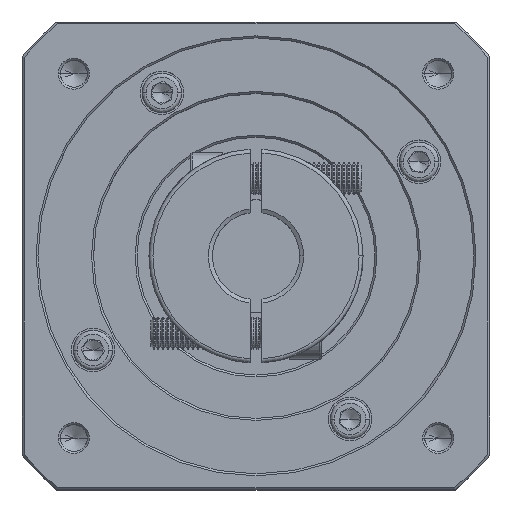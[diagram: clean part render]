
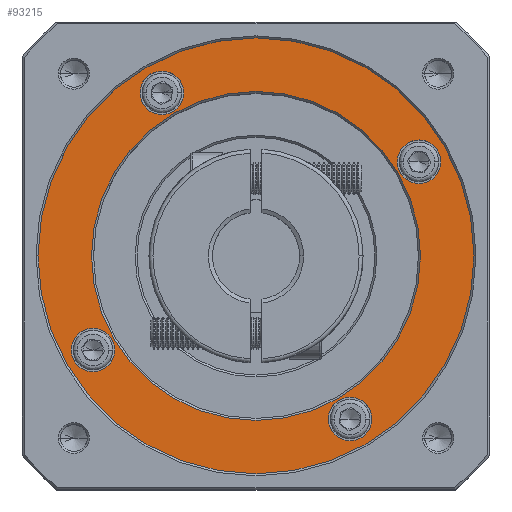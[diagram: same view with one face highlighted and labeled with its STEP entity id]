
A CAD part, top view. The second image highlights one B-rep face of the part: STEP entity #93215.
In plain terms, the highlighted planar face has unit normal (0, 0, 1).
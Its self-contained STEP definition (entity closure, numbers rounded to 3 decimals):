
#1338 = DIRECTION ( 'NONE',  ( 1., 0., 0. ) ) ;
#1892 = EDGE_CURVE ( 'NONE', #13356, #66100, #68498, .T. ) ;
#3138 = FACE_OUTER_BOUND ( 'NONE', #9212, .T. ) ;
#4229 = AXIS2_PLACEMENT_3D ( 'NONE', #20423, #83299, #29493 ) ;
#4446 = CIRCLE ( 'NONE', #73302, 5.5 ) ;
#5276 = VERTEX_POINT ( 'NONE', #7163 ) ;
#5350 = CARTESIAN_POINT ( 'NONE',  ( 98.257, 123.385, 9.997 ) ) ;
#6174 = CIRCLE ( 'NONE', #38266, 5.5 ) ;
#7163 = CARTESIAN_POINT ( 'NONE',  ( 78.893, 147.135, 9.997 ) ) ;
#7756 = ORIENTED_EDGE ( 'NONE', *, *, #53278, .T. ) ;
#9004 = CARTESIAN_POINT ( 'NONE',  ( 61.507, 82.249, 9.997 ) ) ;
#9212 = EDGE_LOOP ( 'NONE', ( #10051, #47886 ) ) ;
#10051 = ORIENTED_EDGE ( 'NONE', *, *, #113981, .T. ) ;
#11323 = EDGE_CURVE ( 'NONE', #65189, #51621, #116116, .T. ) ;
#13356 = VERTEX_POINT ( 'NONE', #29244 ) ;
#14386 = CARTESIAN_POINT ( 'NONE',  ( 14.007, 164.521, 9.997 ) ) ;
#15359 = VERTEX_POINT ( 'NONE', #9004 ) ;
#15802 = CARTESIAN_POINT ( 'NONE',  ( 43.257, 123.385, 9.997 ) ) ;
#16577 = CARTESIAN_POINT ( 'NONE',  ( 72.507, 82.249, 9.997 ) ) ;
#17892 = VERTEX_POINT ( 'NONE', #14386 ) ;
#18271 = ORIENTED_EDGE ( 'NONE', *, *, #1892, .T. ) ;
#19760 = DIRECTION ( 'NONE',  ( 0., 0., -1. ) ) ;
#20423 = CARTESIAN_POINT ( 'NONE',  ( 2.121, 99.635, 9.997 ) ) ;
#20900 = DIRECTION ( 'NONE',  ( 0., 0., -1. ) ) ;
#23142 = ORIENTED_EDGE ( 'NONE', *, *, #62771, .T. ) ;
#24431 = DIRECTION ( 'NONE',  ( 0., 0., -1. ) ) ;
#24798 = DIRECTION ( 'NONE',  ( 1., 0., 0. ) ) ;
#24946 = CARTESIAN_POINT ( 'NONE',  ( 43.257, 123.385, 9.997 ) ) ;
#25561 = CARTESIAN_POINT ( 'NONE',  ( -11.743, 123.385, 9.997 ) ) ;
#26079 = CARTESIAN_POINT ( 'NONE',  ( 89.893, 147.135, 9.997 ) ) ;
#26968 = FACE_BOUND ( 'NONE', #50751, .T. ) ;
#27229 = VERTEX_POINT ( 'NONE', #5350 ) ;
#27415 = VERTEX_POINT ( 'NONE', #26079 ) ;
#27709 = ORIENTED_EDGE ( 'NONE', *, *, #73500, .T. ) ;
#28837 = CARTESIAN_POINT ( 'NONE',  ( 43.257, 123.385, 9.997 ) ) ;
#29244 = CARTESIAN_POINT ( 'NONE',  ( 43.257, 164.885, 9.997 ) ) ;
#29493 = DIRECTION ( 'NONE',  ( 1., 0., 0. ) ) ;
#30047 = DIRECTION ( 'NONE',  ( 0., 0., -1. ) ) ;
#33963 = DIRECTION ( 'NONE',  ( 1., 0., 0. ) ) ;
#34103 = CARTESIAN_POINT ( 'NONE',  ( 43.257, 123.385, 9.997 ) ) ;
#36807 = EDGE_LOOP ( 'NONE', ( #23142, #61276 ) ) ;
#37857 = DIRECTION ( 'NONE',  ( 1., 0., 0. ) ) ;
#38266 = AXIS2_PLACEMENT_3D ( 'NONE', #73578, #19760, #82614 ) ;
#38804 = DIRECTION ( 'NONE',  ( 0., 0., -1. ) ) ;
#38915 = CARTESIAN_POINT ( 'NONE',  ( 43.257, 123.385, 9.997 ) ) ;
#40562 = AXIS2_PLACEMENT_3D ( 'NONE', #78201, #24431, #87256 ) ;
#43142 = DIRECTION ( 'NONE',  ( 0., -1., 0. ) ) ;
#46205 = EDGE_CURVE ( 'NONE', #17892, #54062, #69570, .T. ) ;
#47026 = EDGE_LOOP ( 'NONE', ( #50153, #77355 ) ) ;
#47886 = ORIENTED_EDGE ( 'NONE', *, *, #53810, .T. ) ;
#47959 = DIRECTION ( 'NONE',  ( 0., -1., 0. ) ) ;
#48391 = EDGE_LOOP ( 'NONE', ( #73125, #59457 ) ) ;
#50071 = DIRECTION ( 'NONE',  ( 0., 0., -1. ) ) ;
#50153 = ORIENTED_EDGE ( 'NONE', *, *, #50381, .T. ) ;
#50381 = EDGE_CURVE ( 'NONE', #60306, #15359, #4446, .T. ) ;
#50751 = EDGE_LOOP ( 'NONE', ( #7756, #18271 ) ) ;
#50810 = FACE_BOUND ( 'NONE', #36807, .T. ) ;
#51621 = VERTEX_POINT ( 'NONE', #98407 ) ;
#53278 = EDGE_CURVE ( 'NONE', #66100, #13356, #106811, .T. ) ;
#53810 = EDGE_CURVE ( 'NONE', #95363, #27229, #98215, .T. ) ;
#54062 = VERTEX_POINT ( 'NONE', #63772 ) ;
#55091 = DIRECTION ( 'NONE',  ( 0., 0., -1. ) ) ;
#55167 = AXIS2_PLACEMENT_3D ( 'NONE', #28837, #91684, #37857 ) ;
#56764 = CIRCLE ( 'NONE', #58034, 55. ) ;
#58034 = AXIS2_PLACEMENT_3D ( 'NONE', #15802, #78578, #24798 ) ;
#59457 = ORIENTED_EDGE ( 'NONE', *, *, #46205, .T. ) ;
#59956 = EDGE_CURVE ( 'NONE', #54062, #17892, #111596, .T. ) ;
#60306 = VERTEX_POINT ( 'NONE', #16577 ) ;
#61276 = ORIENTED_EDGE ( 'NONE', *, *, #113590, .T. ) ;
#62771 = EDGE_CURVE ( 'NONE', #27415, #5276, #104831, .T. ) ;
#62920 = CARTESIAN_POINT ( 'NONE',  ( -3.379, 99.635, 9.997 ) ) ;
#63772 = CARTESIAN_POINT ( 'NONE',  ( 25.007, 164.521, 9.997 ) ) ;
#65189 = VERTEX_POINT ( 'NONE', #62920 ) ;
#66100 = VERTEX_POINT ( 'NONE', #87422 ) ;
#66810 = AXIS2_PLACEMENT_3D ( 'NONE', #108843, #55091, #1338 ) ;
#66975 = AXIS2_PLACEMENT_3D ( 'NONE', #34103, #96990, #43142 ) ;
#68498 = CIRCLE ( 'NONE', #96207, 41.5 ) ;
#69570 = CIRCLE ( 'NONE', #108875, 5.5 ) ;
#71944 = FACE_BOUND ( 'NONE', #85617, .T. ) ;
#72791 = CIRCLE ( 'NONE', #4229, 5.5 ) ;
#73125 = ORIENTED_EDGE ( 'NONE', *, *, #59956, .T. ) ;
#73302 = AXIS2_PLACEMENT_3D ( 'NONE', #83806, #30047, #92871 ) ;
#73500 = EDGE_CURVE ( 'NONE', #51621, #65189, #72791, .T. ) ;
#73578 = CARTESIAN_POINT ( 'NONE',  ( 84.393, 147.135, 9.997 ) ) ;
#74708 = CARTESIAN_POINT ( 'NONE',  ( 19.507, 164.521, 9.997 ) ) ;
#74747 = FACE_BOUND ( 'NONE', #47026, .T. ) ;
#77355 = ORIENTED_EDGE ( 'NONE', *, *, #90794, .T. ) ;
#78201 = CARTESIAN_POINT ( 'NONE',  ( 67.007, 82.249, 9.997 ) ) ;
#78578 = DIRECTION ( 'NONE',  ( 0., 0., 1. ) ) ;
#82614 = DIRECTION ( 'NONE',  ( 1., 0., 0. ) ) ;
#83299 = DIRECTION ( 'NONE',  ( 0., 0., -1. ) ) ;
#83729 = DIRECTION ( 'NONE',  ( 1., 0., 0. ) ) ;
#83806 = CARTESIAN_POINT ( 'NONE',  ( 67.007, 82.249, 9.997 ) ) ;
#84569 = ORIENTED_EDGE ( 'NONE', *, *, #11323, .T. ) ;
#85617 = EDGE_LOOP ( 'NONE', ( #27709, #84569 ) ) ;
#87256 = DIRECTION ( 'NONE',  ( 1., 0., 0. ) ) ;
#87422 = CARTESIAN_POINT ( 'NONE',  ( 43.257, 81.885, 9.997 ) ) ;
#87772 = DIRECTION ( 'NONE',  ( 0., 0., 1. ) ) ;
#90372 = AXIS2_PLACEMENT_3D ( 'NONE', #24946, #87772, #33963 ) ;
#90794 = EDGE_CURVE ( 'NONE', #15359, #60306, #103718, .T. ) ;
#91684 = DIRECTION ( 'NONE',  ( 0., 0., 1. ) ) ;
#92670 = CARTESIAN_POINT ( 'NONE',  ( 2.121, 99.635, 9.997 ) ) ;
#92871 = DIRECTION ( 'NONE',  ( 1., 0., 0. ) ) ;
#93215 = ADVANCED_FACE ( 'NONE', ( #3138, #26968, #50810, #74747, #95856, #71944 ), #109296, .T. ) ;
#95363 = VERTEX_POINT ( 'NONE', #25561 ) ;
#95856 = FACE_BOUND ( 'NONE', #48391, .T. ) ;
#96207 = AXIS2_PLACEMENT_3D ( 'NONE', #38915, #101728, #47959 ) ;
#96990 = DIRECTION ( 'NONE',  ( 0., 0., -1. ) ) ;
#98215 = CIRCLE ( 'NONE', #90372, 55. ) ;
#98407 = CARTESIAN_POINT ( 'NONE',  ( 7.621, 99.635, 9.997 ) ) ;
#101626 = DIRECTION ( 'NONE',  ( 1., 0., 0. ) ) ;
#101728 = DIRECTION ( 'NONE',  ( 0., 0., -1. ) ) ;
#103718 = CIRCLE ( 'NONE', #40562, 5.5 ) ;
#103854 = CARTESIAN_POINT ( 'NONE',  ( 19.507, 164.521, 9.997 ) ) ;
#104730 = AXIS2_PLACEMENT_3D ( 'NONE', #103854, #50071, #112894 ) ;
#104831 = CIRCLE ( 'NONE', #66810, 5.5 ) ;
#106811 = CIRCLE ( 'NONE', #66975, 41.5 ) ;
#108843 = CARTESIAN_POINT ( 'NONE',  ( 84.393, 147.135, 9.997 ) ) ;
#108875 = AXIS2_PLACEMENT_3D ( 'NONE', #74708, #20900, #83729 ) ;
#109296 = PLANE ( 'NONE',  #55167 ) ;
#111596 = CIRCLE ( 'NONE', #104730, 5.5 ) ;
#112760 = AXIS2_PLACEMENT_3D ( 'NONE', #92670, #38804, #101626 ) ;
#112894 = DIRECTION ( 'NONE',  ( 1., 0., 0. ) ) ;
#113590 = EDGE_CURVE ( 'NONE', #5276, #27415, #6174, .T. ) ;
#113981 = EDGE_CURVE ( 'NONE', #27229, #95363, #56764, .T. ) ;
#116116 = CIRCLE ( 'NONE', #112760, 5.5 ) ;
